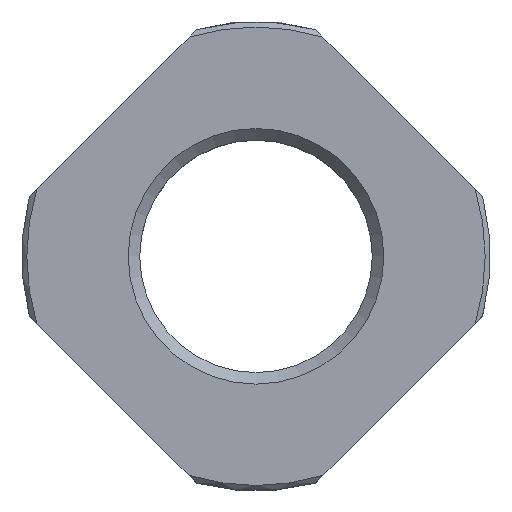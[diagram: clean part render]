
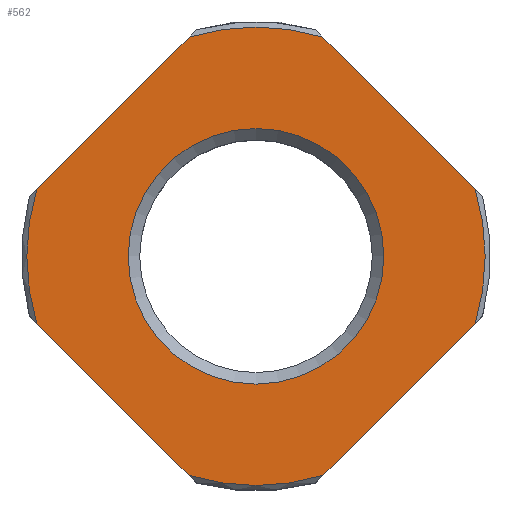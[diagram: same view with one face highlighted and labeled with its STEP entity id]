
A CAD part, top view. The second image highlights one B-rep face of the part: STEP entity #562.
In plain terms, the highlighted planar face has unit normal (0, 0, 1).
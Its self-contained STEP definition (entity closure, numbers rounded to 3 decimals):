
#32=PLANE('',#617);
#50=LINE('',#878,#84);
#51=LINE('',#882,#85);
#52=LINE('',#886,#86);
#53=LINE('',#890,#87);
#84=VECTOR('',#697,1000.);
#85=VECTOR('',#700,1000.);
#86=VECTOR('',#703,1000.);
#87=VECTOR('',#706,1000.);
#146=ORIENTED_EDGE('',*,*,#300,.F.);
#147=ORIENTED_EDGE('',*,*,#301,.T.);
#148=ORIENTED_EDGE('',*,*,#302,.F.);
#149=ORIENTED_EDGE('',*,*,#303,.T.);
#150=ORIENTED_EDGE('',*,*,#304,.F.);
#151=ORIENTED_EDGE('',*,*,#305,.T.);
#152=ORIENTED_EDGE('',*,*,#306,.F.);
#153=ORIENTED_EDGE('',*,*,#307,.T.);
#154=ORIENTED_EDGE('',*,*,#308,.T.);
#300=EDGE_CURVE('',#378,#379,#430,.T.);
#301=EDGE_CURVE('',#378,#380,#50,.T.);
#302=EDGE_CURVE('',#381,#380,#431,.T.);
#303=EDGE_CURVE('',#381,#382,#51,.T.);
#304=EDGE_CURVE('',#383,#382,#432,.T.);
#305=EDGE_CURVE('',#383,#384,#52,.T.);
#306=EDGE_CURVE('',#385,#384,#433,.T.);
#307=EDGE_CURVE('',#385,#379,#53,.T.);
#308=EDGE_CURVE('',#386,#386,#434,.T.);
#378=VERTEX_POINT('',#876);
#379=VERTEX_POINT('',#877);
#380=VERTEX_POINT('',#879);
#381=VERTEX_POINT('',#881);
#382=VERTEX_POINT('',#883);
#383=VERTEX_POINT('',#885);
#384=VERTEX_POINT('',#887);
#385=VERTEX_POINT('',#889);
#386=VERTEX_POINT('',#892);
#430=CIRCLE('',#618,10.76);
#431=CIRCLE('',#619,10.76);
#432=CIRCLE('',#620,10.76);
#433=CIRCLE('',#621,10.76);
#434=CIRCLE('',#622,6.);
#459=EDGE_LOOP('',(#146,#147,#148,#149,#150,#151,#152,#153));
#460=EDGE_LOOP('',(#154));
#509=FACE_BOUND('',#459,.T.);
#510=FACE_BOUND('',#460,.T.);
#562=ADVANCED_FACE('',(#509,#510),#32,.F.);
#617=AXIS2_PLACEMENT_3D('',#874,#693,#694);
#618=AXIS2_PLACEMENT_3D('',#875,#695,#696);
#619=AXIS2_PLACEMENT_3D('',#880,#698,#699);
#620=AXIS2_PLACEMENT_3D('',#884,#701,#702);
#621=AXIS2_PLACEMENT_3D('',#888,#704,#705);
#622=AXIS2_PLACEMENT_3D('',#891,#707,#708);
#693=DIRECTION('',(0.,0.,-1.));
#694=DIRECTION('',(-1.,0.,0.));
#695=DIRECTION('',(0.,0.,-1.));
#696=DIRECTION('',(-1.,0.,0.));
#697=DIRECTION('',(-0.707,-0.707,0.));
#698=DIRECTION('',(0.,0.,-1.));
#699=DIRECTION('',(-1.,0.,0.));
#700=DIRECTION('',(0.707,-0.707,0.));
#701=DIRECTION('',(0.,0.,-1.));
#702=DIRECTION('',(-1.,0.,0.));
#703=DIRECTION('',(0.707,0.707,0.));
#704=DIRECTION('',(0.,0.,-1.));
#705=DIRECTION('',(-1.,0.,0.));
#706=DIRECTION('',(-0.707,0.707,0.));
#707=DIRECTION('',(0.,0.,-1.));
#708=DIRECTION('',(-1.,0.,0.));
#874=CARTESIAN_POINT('',(0.,0.,8.));
#875=CARTESIAN_POINT('',(0.,0.,8.));
#876=CARTESIAN_POINT('',(-3.145,10.29,8.));
#877=CARTESIAN_POINT('',(3.145,10.29,8.));
#878=CARTESIAN_POINT('',(0.,13.435,8.));
#879=CARTESIAN_POINT('',(-10.29,3.145,8.));
#880=CARTESIAN_POINT('',(0.,0.,8.));
#881=CARTESIAN_POINT('',(-10.29,-3.145,8.));
#882=CARTESIAN_POINT('',(-13.435,0.,8.));
#883=CARTESIAN_POINT('',(-3.145,-10.29,8.));
#884=CARTESIAN_POINT('',(0.,0.,8.));
#885=CARTESIAN_POINT('',(3.145,-10.29,8.));
#886=CARTESIAN_POINT('',(0.,-13.435,8.));
#887=CARTESIAN_POINT('',(10.29,-3.145,8.));
#888=CARTESIAN_POINT('',(0.,0.,8.));
#889=CARTESIAN_POINT('',(10.29,3.145,8.));
#890=CARTESIAN_POINT('',(13.435,0.,8.));
#891=CARTESIAN_POINT('',(0.,0.,8.));
#892=CARTESIAN_POINT('',(-6.,0.,8.));
